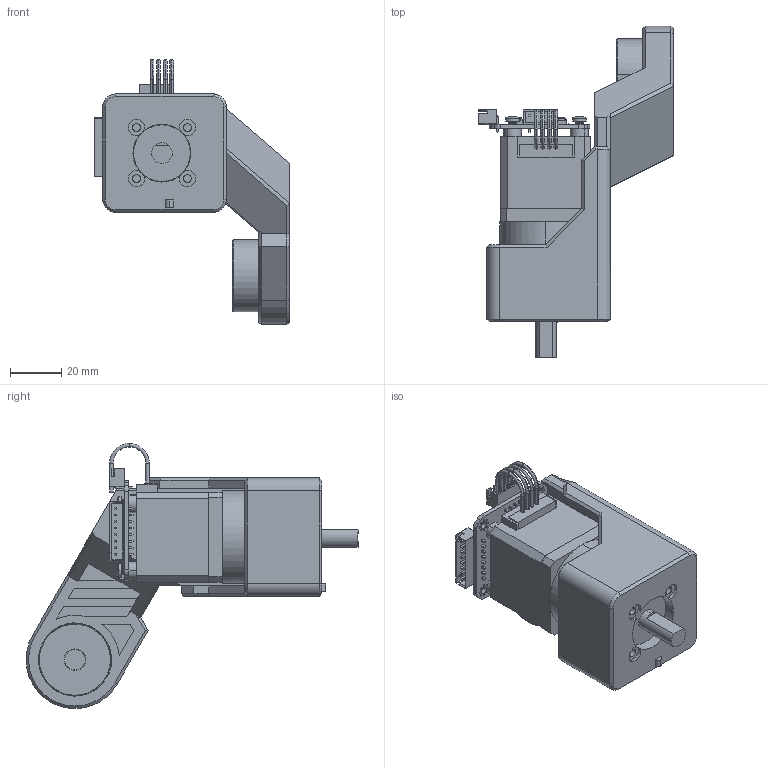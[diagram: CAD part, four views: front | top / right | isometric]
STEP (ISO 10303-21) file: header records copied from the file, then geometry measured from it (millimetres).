
FILE_DESCRIPTION(('Open CASCADE Model'),'2;1');
FILE_NAME('Open CASCADE Shape Model','2026-09-19T11:07:56',('Author'),( 'Open CASCADE'),'Open CASCADE STEP processor 7.9','Open CASCADE 7.9' ,'Unknown');
FILE_SCHEMA(('AUTOMOTIVE_DESIGN { 1 0 10303 214 1 1 1 1 }'));
Length unit declared in the file: millimetre
Products named in the file (29): Open CASCADE STEP translator 7.9 54; Open CASCADE STEP translator 7.9 54.1; Open CASCADE STEP translator 7.9 54.1.1; Open CASCADE STEP translator 7.9 54.1.1.1; Open CASCADE STEP translator 7.9 54.1.1.1.1; Open CASCADE STEP translator 7.9 54.1.1.1.2; Open CASCADE STEP translator 7.9 54.1.1.1.2.1; Open CASCADE STEP translator 7.9 54.1.1.1.2.1.1; Open CASCADE STEP translator 7.9 54.1.1.1.2.1.2; Open CASCADE STEP translator 7.9 54.1.1.1.2.1.3; Open CASCADE STEP translator 7.9 54.1.1.1.3; Open CASCADE STEP translator 7.9 54.1.1.1.4; Open CASCADE STEP translator 7.9 54.1.1.1.4.1; Open CASCADE STEP translator 7.9 54.1.1.1.4.2; Open CASCADE STEP translator 7.9 54.1.1.1.5; Open CASCADE STEP translator 7.9 54.1.1.1.6; Open CASCADE STEP translator 7.9 54.1.1.2; Open CASCADE STEP translator 7.9 54.1.1.2.1; Open CASCADE STEP translator 7.9 54.1.1.2.2; Open CASCADE STEP translator 7.9 54.1.1.3; Open CASCADE STEP translator 7.9 54.1.1.7; Open CASCADE STEP translator 7.9 54.1.1.11; Open CASCADE STEP translator 7.9 54.1.1.11.1; Open CASCADE STEP translator 7.9 54.1.1.11.2; Open CASCADE STEP translator 7.9 54.1.1.11.3; Open CASCADE STEP translator 7.9 54.1.1.11.4; Open CASCADE STEP translator 7.9 54.2; Open CASCADE STEP translator 7.9 54.3; Open CASCADE STEP translator 7.9 54.4
Assembly tree (34 placements, depth 7):
  Open CASCADE STEP translator 7.9 54
    Open CASCADE STEP translator 7.9 54.1
      Open CASCADE STEP translator 7.9 54.1.1
        Open CASCADE STEP translator 7.9 54.1.1.1
          Open CASCADE STEP translator 7.9 54.1.1.1.1
          Open CASCADE STEP translator 7.9 54.1.1.1.2
            Open CASCADE STEP translator 7.9 54.1.1.1.2.1
              Open CASCADE STEP translator 7.9 54.1.1.1.2.1.1
              Open CASCADE STEP translator 7.9 54.1.1.1.2.1.2
              Open CASCADE STEP translator 7.9 54.1.1.1.2.1.3
          Open CASCADE STEP translator 7.9 54.1.1.1.3
          Open CASCADE STEP translator 7.9 54.1.1.1.4
            Open CASCADE STEP translator 7.9 54.1.1.1.4.1
            Open CASCADE STEP translator 7.9 54.1.1.1.4.2
          Open CASCADE STEP translator 7.9 54.1.1.1.5
          Open CASCADE STEP translator 7.9 54.1.1.1.6
        Open CASCADE STEP translator 7.9 54.1.1.2
          Open CASCADE STEP translator 7.9 54.1.1.2.1
          Open CASCADE STEP translator 7.9 54.1.1.2.2
        Open CASCADE STEP translator 7.9 54.1.1.3  x4
        Open CASCADE STEP translator 7.9 54.1.1.7  x4
        Open CASCADE STEP translator 7.9 54.1.1.11
          Open CASCADE STEP translator 7.9 54.1.1.11.1
          Open CASCADE STEP translator 7.9 54.1.1.11.2
          Open CASCADE STEP translator 7.9 54.1.1.11.3
          Open CASCADE STEP translator 7.9 54.1.1.11.4
    Open CASCADE STEP translator 7.9 54.2
    Open CASCADE STEP translator 7.9 54.3
    Open CASCADE STEP translator 7.9 54.4
Bounding box: 75.65 x 129 x 103.03 mm (x, y, z)
Volume: 161594.7 mm3; surface area: 55135.6 mm2
Topology: 26 solids, 26 shells, 2300 faces, 6173 edges, 4043 vertices
Faces by surface type: plane 1734, cylinder 456, cone 54, bspline 36, torus 20
Entity records: 143389 total; most frequent: CARTESIAN_POINT 28516, DIRECTION 21382, LINE 15266, VECTOR 15266, ORIENTED_EDGE 11302, PCURVE 11302, DEFINITIONAL_REPRESENTATION 11302, EDGE_CURVE 5651
